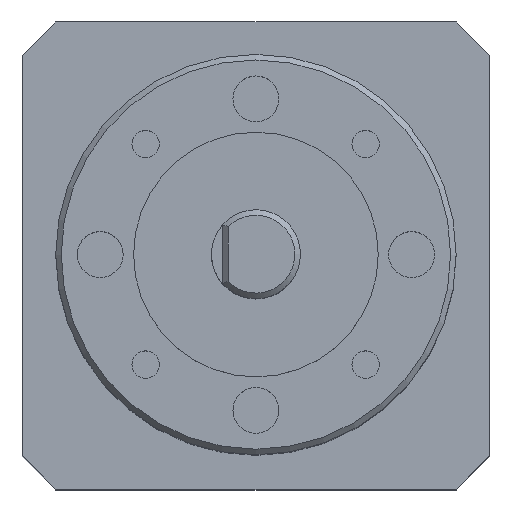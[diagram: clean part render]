
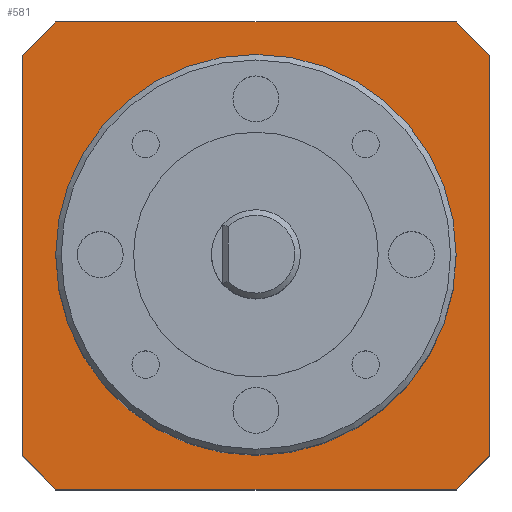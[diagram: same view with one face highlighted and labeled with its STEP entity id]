
A CAD part, top view. The second image highlights one B-rep face of the part: STEP entity #581.
In plain terms, the highlighted planar face has unit normal (0, 0, 1).
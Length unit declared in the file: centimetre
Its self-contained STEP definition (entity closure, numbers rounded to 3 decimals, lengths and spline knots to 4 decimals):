
#239=VERTEX_POINT('',#3151);
#250=VERTEX_POINT('',#3185);
#251=VERTEX_POINT('',#3186);
#252=VERTEX_POINT('',#3188);
#253=VERTEX_POINT('',#3190);
#254=VERTEX_POINT('',#3192);
#255=VERTEX_POINT('',#3194);
#256=VERTEX_POINT('',#3196);
#257=VERTEX_POINT('',#3198);
#287=EDGE_CURVE('',#239,#239,#844,.T.);
#298=EDGE_CURVE('',#250,#251,#1648,.T.);
#299=EDGE_CURVE('',#252,#250,#1649,.T.);
#300=EDGE_CURVE('',#253,#252,#1650,.T.);
#301=EDGE_CURVE('',#254,#253,#1651,.T.);
#302=EDGE_CURVE('',#255,#254,#1652,.T.);
#303=EDGE_CURVE('',#256,#255,#1653,.T.);
#304=EDGE_CURVE('',#257,#256,#1654,.T.);
#305=EDGE_CURVE('',#251,#257,#1655,.T.);
#385=ORIENTED_EDGE('',*,*,#287,.T.);
#386=ORIENTED_EDGE('',*,*,#298,.F.);
#387=ORIENTED_EDGE('',*,*,#299,.F.);
#388=ORIENTED_EDGE('',*,*,#300,.F.);
#389=ORIENTED_EDGE('',*,*,#301,.F.);
#390=ORIENTED_EDGE('',*,*,#302,.F.);
#391=ORIENTED_EDGE('',*,*,#303,.F.);
#392=ORIENTED_EDGE('',*,*,#304,.F.);
#393=ORIENTED_EDGE('',*,*,#305,.F.);
#483=EDGE_LOOP('',(#385));
#484=EDGE_LOOP('',(#386,#387,#388,#389,#390,#391,#392,#393));
#543=FACE_BOUND('',#483,.T.);
#544=FACE_BOUND('',#484,.T.);
#581=ADVANCED_FACE('',(#543,#544),#2421,.T.);
#844=CIRCLE('',#2262,1.8);
#1648=LINE('',#3184,#2369);
#1649=LINE('',#3187,#2370);
#1650=LINE('',#3189,#2371);
#1651=LINE('',#3191,#2372);
#1652=LINE('',#3193,#2373);
#1653=LINE('',#3195,#2374);
#1654=LINE('',#3197,#2375);
#1655=LINE('',#3199,#2376);
#2262=AXIS2_PLACEMENT_3D('',#3150,#2703,#2704);
#2284=AXIS2_PLACEMENT_3D('',#3183,#2741,$);
#2369=VECTOR('',#2742,1.);
#2370=VECTOR('',#2743,1.);
#2371=VECTOR('',#2744,1.);
#2372=VECTOR('',#2745,1.);
#2373=VECTOR('',#2746,1.);
#2374=VECTOR('',#2747,1.);
#2375=VECTOR('',#2748,1.);
#2376=VECTOR('',#2749,1.);
#2421=PLANE('',#2284);
#2703=DIRECTION('',(0.,0.,-1.));
#2704=DIRECTION('',(1.8,0.,0.));
#2741=DIRECTION('',(0.,0.,1.));
#2742=DIRECTION('',(0.,-1.,0.));
#2743=DIRECTION('',(0.707,-0.707,0.));
#2744=DIRECTION('',(1.,0.,0.));
#2745=DIRECTION('',(0.707,0.707,0.));
#2746=DIRECTION('',(0.,1.,0.));
#2747=DIRECTION('',(-0.707,0.707,0.));
#2748=DIRECTION('',(-1.,0.,0.));
#2749=DIRECTION('',(-0.707,-0.707,0.));
#3150=CARTESIAN_POINT('',(2.0993,2.1029,4.5));
#3151=CARTESIAN_POINT('',(3.8993,2.1029,4.5));
#3183=CARTESIAN_POINT('',(2.1,2.1,4.5));
#3184=CARTESIAN_POINT('',(4.2,3.9,4.5));
#3185=CARTESIAN_POINT('',(4.2,3.9,4.5));
#3186=CARTESIAN_POINT('',(4.2,0.3,4.5));
#3187=CARTESIAN_POINT('',(3.9,4.2,4.5));
#3188=CARTESIAN_POINT('',(3.9,4.2,4.5));
#3189=CARTESIAN_POINT('',(0.3,4.2,4.5));
#3190=CARTESIAN_POINT('',(0.3,4.2,4.5));
#3191=CARTESIAN_POINT('',(0.,3.9,4.5));
#3192=CARTESIAN_POINT('',(0.,3.9,4.5));
#3193=CARTESIAN_POINT('',(0.,0.3,4.5));
#3194=CARTESIAN_POINT('',(0.,0.3,4.5));
#3195=CARTESIAN_POINT('',(0.3,0.,4.5));
#3196=CARTESIAN_POINT('',(0.3,0.,4.5));
#3197=CARTESIAN_POINT('',(3.9,0.,4.5));
#3198=CARTESIAN_POINT('',(3.9,0.,4.5));
#3199=CARTESIAN_POINT('',(4.2,0.3,4.5));
